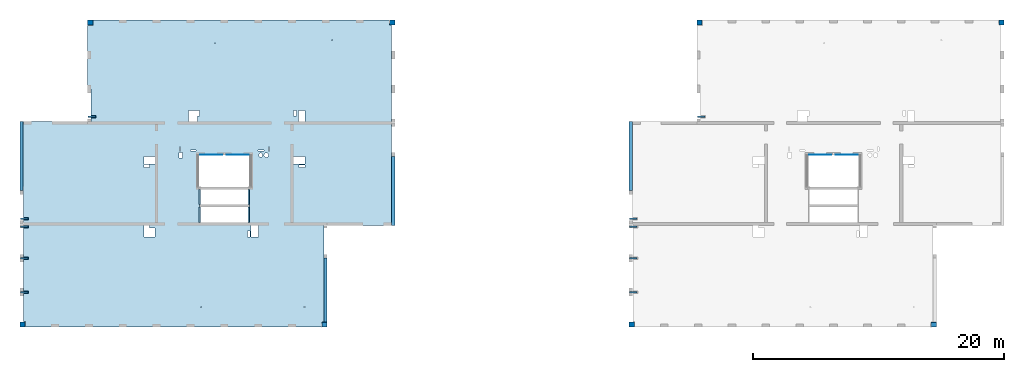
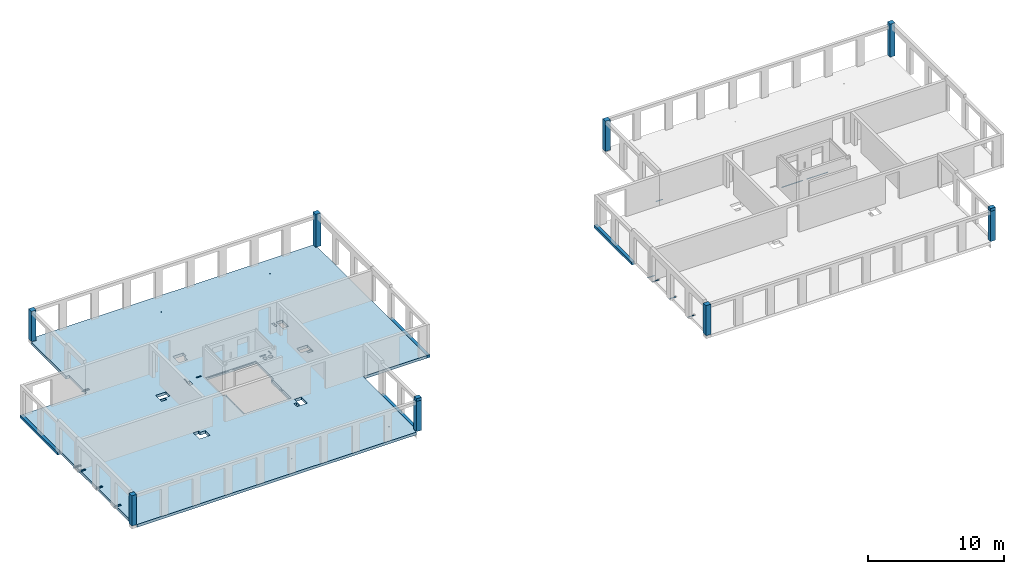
# One storey, part 1 of 8: 14 beams, 10 columns, 5 slabs, 35 openings.
"""IFC2X3 building model written with IfcOpenShell, lengths in millimetres."""

import ifcopenshell
import ifcopenshell.guid

model = None  # the IFC model being written
_history = None  # IfcOwnerHistory: only IFC2X3 demands one
_inside = {}  # id of a spatial element -> (the spatial element, [elements in it])
_under = {}  # id of a project, library or spatial element -> (it, [spatial elements below it])
_declared = {}  # id of a project -> (the project, [libraries it declares])
_typed = {}  # id of a type object -> (the type object, [elements of that type])
_made_of = {}  # id of a material, layer set ... -> (it, [elements and type objects made of it])


def new_model(schema):
    """Start an empty IFC model of exactly this schema.

    Asked for "IFC4X3", IfcOpenShell would pick the latest addendum, in which some entities
    have other attributes; the version numbers below select the first issue.
    IFC2X3 requires an IfcOwnerHistory on every rooted entity: one is made here for all.
    """
    global model, _history
    if schema == "IFC4X3":
        model = ifcopenshell.file(schema_version=(4, 3, 0, 0))
    else:
        model = ifcopenshell.file(schema=schema)
    _inside.clear()
    _under.clear()
    _declared.clear()
    _typed.clear()
    _made_of.clear()
    _history = None
    if model.schema == "IFC2X3":
        org = make("IfcOrganization", Name="unknown")
        user = make(
            "IfcPersonAndOrganization",
            ThePerson=make("IfcPerson", FamilyName="unknown"),
            TheOrganization=org,
        )
        app = make(
            "IfcApplication",
            ApplicationDeveloper=org,
            Version="unknown",
            ApplicationFullName="unknown",
            ApplicationIdentifier="unknown",
        )
        _history = make(
            "IfcOwnerHistory",
            OwningUser=user,
            OwningApplication=app,
            ChangeAction="ADDED",
            CreationDate=0,
        )
    return model


def make(cls, **values):
    """One entity of the class cls with the attributes given. An attribute that is None is left unset."""
    return model.create_entity(
        cls, **{name: value for name, value in values.items() if value is not None}
    )


def entity(cls, *values):
    """Any entity or typed value of the class cls, its attributes in the order of the schema. None: left unset."""
    e = model.create_entity(cls)
    for i, value in enumerate(values):
        if value is not None:
            e[i] = value
    return e


def rooted(cls, **values):
    """An entity with a GlobalId (a new one), such as an element, a storey or a relation."""
    return make(cls, GlobalId=ifcopenshell.guid.new(), OwnerHistory=_history, **values)


def si_unit(unit_type, name, prefix=None):
    """IfcSIUnit, for example si_unit("LENGTHUNIT", "METRE", prefix="MILLI")."""
    return make("IfcSIUnit", UnitType=unit_type, Prefix=prefix, Name=name)


def converted_unit(unit_type, name, factor, base, dimensions=None, offset=None):
    """IfcConversionBasedUnit, such as the inch: factor (a typed value) times the base unit."""
    return make(
        "IfcConversionBasedUnit"
        if offset is None
        else "IfcConversionBasedUnitWithOffset",
        ConversionOffset=offset,
        Dimensions=None
        if dimensions is None
        else entity("IfcDimensionalExponents", *dimensions),
        UnitType=unit_type,
        Name=name,
        ConversionFactor=make(
            "IfcMeasureWithUnit", ValueComponent=factor, UnitComponent=base
        ),
    )


def derived_unit(unit_type, elements):
    """IfcDerivedUnit: a product of units, each with its exponent."""
    return make(
        "IfcDerivedUnit",
        Elements=[
            make("IfcDerivedUnitElement", Unit=unit, Exponent=power)
            for unit, power in elements
        ],
        UnitType=unit_type,
    )


def assignment(units):
    """IfcUnitAssignment: the units of a project."""
    return None if units is None else make("IfcUnitAssignment", Units=units)


def point(xyz):
    """IfcCartesianPoint."""
    return None if xyz is None else make("IfcCartesianPoint", Coordinates=xyz)


def direction(xyz):
    """IfcDirection."""
    return None if xyz is None else make("IfcDirection", DirectionRatios=xyz)


def frame(location, z_axis=None, x_axis=None):
    """IfcAxis2Placement3D, a coordinate frame: its origin and axes. An axis left out is left unset."""
    return make(
        "IfcAxis2Placement3D",
        Location=point(location),
        Axis=direction(z_axis),
        RefDirection=direction(x_axis),
    )


def frame_2d(location, x_axis=None):
    """IfcAxis2Placement2D, a coordinate frame in the plane: its origin and x axis."""
    return make(
        "IfcAxis2Placement2D", Location=point(location), RefDirection=direction(x_axis)
    )


def origin():
    """The frame at (0, 0, 0) with its axes left unset."""
    return frame((0.0, 0.0, 0.0))


def origin_2d_with_axis():
    """The frame at (0, 0) in the plane with the x axis (1, 0) written out."""
    return frame_2d((0.0, 0.0), x_axis=(1.0, 0.0))


def place(relative_to, where):
    """IfcLocalPlacement: puts the frame where relative to a parent placement (None: the world)."""
    return make(
        "IfcLocalPlacement", PlacementRelTo=relative_to, RelativePlacement=where
    )


def context(
    kind, dimensions, precision=None, world=None, true_north=None, identifier=None
):
    """IfcGeometricRepresentationContext, for example the 3D "Model" context."""
    return make(
        "IfcGeometricRepresentationContext",
        ContextIdentifier=identifier,
        ContextType=kind,
        CoordinateSpaceDimension=dimensions,
        Precision=precision,
        WorldCoordinateSystem=world,
        TrueNorth=true_north,
    )


def subcontext(parent, identifier, kind, view, scale=None):
    """IfcGeometricRepresentationSubContext, for example "Body" below "Model"."""
    return make(
        "IfcGeometricRepresentationSubContext",
        ContextIdentifier=identifier,
        ContextType=kind,
        ParentContext=parent,
        TargetScale=scale,
        TargetView=view,
    )


def project(units=None, contexts=None):
    """IfcProject with its units and contexts."""
    return rooted(
        "IfcProject",
        Name="project",
        RepresentationContexts=contexts,
        UnitsInContext=assignment(units),
    )


def spatial(cls, under=None, at=None, **own):
    """A site, building, storey or space (cls), placed at a placement, below another one or the project."""
    s = rooted(cls, ObjectPlacement=at, **own)
    if under is not None:
        _under.setdefault(under.id(), (under, []))[1].append(s)
    return s


def polyline(points):
    """IfcPolyline through the points."""
    return make("IfcPolyline", Points=[point(p) for p in points])


def profile(cls, at=None, kind="AREA", **sizes):
    """A parametric profile (cls). Its sizes go by their IFC names, for example OverallWidth=200.0."""
    return make(cls, ProfileType=kind, Position=at, **sizes)


def rectangle(**sizes):
    """IfcRectangleProfileDef."""
    return profile("IfcRectangleProfileDef", **sizes)


def circle(**sizes):
    """IfcCircleProfileDef."""
    return profile("IfcCircleProfileDef", **sizes)


def outline(outer, holes=None, kind="AREA"):
    """IfcArbitraryClosedProfileDef: a profile drawn as a closed curve; with holes, ...WithVoids."""
    if holes is None:
        return make("IfcArbitraryClosedProfileDef", ProfileType=kind, OuterCurve=outer)
    return make(
        "IfcArbitraryProfileDefWithVoids",
        ProfileType=kind,
        OuterCurve=outer,
        InnerCurves=holes,
    )


def extrude(swept, where, along, depth):
    """IfcExtrudedAreaSolid: the profile swept, set in the frame where, extruded along a direction by depth."""
    return make(
        "IfcExtrudedAreaSolid",
        SweptArea=swept,
        Position=where,
        ExtrudedDirection=direction(along),
        Depth=depth,
    )


def shape(context_of_items, identifier, shape_type, items):
    """IfcShapeRepresentation: the items that make up one representation, for example the "Body"."""
    return make(
        "IfcShapeRepresentation",
        ContextOfItems=context_of_items,
        RepresentationIdentifier=identifier,
        RepresentationType=shape_type,
        Items=items,
    )


def source(mapping_origin, context_of_items, identifier, shape_type, items):
    """IfcRepresentationMap: a shape defined once, which mapped items show again and again."""
    return make(
        "IfcRepresentationMap",
        MappingOrigin=mapping_origin,
        MappedRepresentation=shape(context_of_items, identifier, shape_type, items),
    )


def transform(
    local_origin,
    x_axis=None,
    y_axis=None,
    z_axis=None,
    scale=None,
    scale2=None,
    scale3=None,
    uniform=True,
):
    """IfcCartesianTransformationOperator3D, or its non-uniform kind. x_axis, y_axis, z_axis: its Axis1, 2, 3."""
    if uniform:
        return make(
            "IfcCartesianTransformationOperator3D",
            Axis1=direction(x_axis),
            Axis2=direction(y_axis),
            LocalOrigin=point(local_origin),
            Scale=scale,
            Axis3=direction(z_axis),
        )
    return make(
        "IfcCartesianTransformationOperator3DnonUniform",
        Axis1=direction(x_axis),
        Axis2=direction(y_axis),
        LocalOrigin=point(local_origin),
        Scale=scale,
        Axis3=direction(z_axis),
        Scale2=scale2,
        Scale3=scale3,
    )


def mapped(mapping_source, mapping_target):
    """IfcMappedItem: shows the shape of a source again, moved by a transform."""
    return make(
        "IfcMappedItem", MappingSource=mapping_source, MappingTarget=mapping_target
    )


def material(Name=None, Category=None):
    """IfcMaterial."""
    return make("IfcMaterial", Name=Name, Category=Category)


def layer(
    of_material, thickness, ventilated=None, Name=None, Category=None, Priority=None
):
    """IfcMaterialLayer: one layer of a wall or slab, of a material (None: an air gap)."""
    return make(
        "IfcMaterialLayer",
        Material=of_material,
        LayerThickness=thickness,
        IsVentilated=ventilated,
        Name=Name,
        Category=Category,
        Priority=Priority,
    )


def layer_set(layers, Name=None):
    """IfcMaterialLayerSet."""
    return make("IfcMaterialLayerSet", MaterialLayers=layers, LayerSetName=Name)


def layer_usage(for_layer_set, set_direction, sense, offset, extent=None):
    """IfcMaterialLayerSetUsage: how a layer set lies in its element."""
    return make(
        "IfcMaterialLayerSetUsage",
        ForLayerSet=for_layer_set,
        LayerSetDirection=set_direction,
        DirectionSense=sense,
        OffsetFromReferenceLine=offset,
        ReferenceExtent=extent,
    )


def made_of(thing, what):
    """Note that an element or type object is made of a material, layer set ...; save() writes the relation."""
    if what is not None:
        _made_of.setdefault(what.id(), (what, []))[1].append(thing)
    return thing


def type_object(cls, material=None, **own):
    """A type object (cls), such as IfcWallType, which elements share."""
    return made_of(rooted(cls, **own), material)


def type_shapes(of_type, sources):
    """Give a type object the sources (RepresentationMaps) that its elements show as mapped items."""
    of_type.RepresentationMaps = sources


def element(
    cls,
    number,
    at=None,
    inside=None,
    cuts=None,
    type_object=None,
    material=None,
    context=None,
    identifier="Body",
    shape_type=None,
    held_by="IfcProductDefinitionShape",
    body=None,
    shapes=None,
    **own,
):
    """One element of the class cls, such as IfcWall. Its Tag is "e" and its number.

    at: its placement. inside: the storey or other place that contains it. cuts: it is an
    opening in that element (IfcRelVoidsElement). A single representation is given by context,
    identifier, shape_type and body (its items); several are given by shapes. held_by: the class
    of the entity that holds the representations. save() writes the other relations.
    """
    e = rooted(cls, Tag="e%d" % number, ObjectPlacement=at, **own)
    if body is not None:
        shapes = [shape(context, identifier, shape_type, body)]
    if shapes is not None:
        e.Representation = make(held_by, Representations=shapes)
    if inside is not None:
        _inside.setdefault(inside.id(), (inside, []))[1].append(e)
    if cuts is not None:
        rooted(
            "IfcRelVoidsElement", RelatingBuildingElement=cuts, RelatedOpeningElement=e
        )
    if type_object is not None:
        _typed.setdefault(type_object.id(), (type_object, []))[1].append(e)
    return made_of(e, material)


def aggregate(whole, parts):
    """IfcRelAggregates: a whole, such as a stair, and the parts it consists of."""
    return rooted("IfcRelAggregates", RelatingObject=whole, RelatedObjects=parts)


def save(model, path):
    """Write the relations noted so far, then the file.

    IfcRelAggregates (storeys below a building ...), IfcRelContainedInSpatialStructure (elements
    in a storey), IfcRelDefinesByType, IfcRelAssociatesMaterial and IfcRelDeclares: one each for
    every whole, place, type object, material and project.
    """
    for whole, parts in _under.values():
        aggregate(whole, parts)
    for where, things in _inside.values():
        rooted(
            "IfcRelContainedInSpatialStructure",
            RelatedElements=things,
            RelatingStructure=where,
        )
    for kind, things in _typed.values():
        rooted("IfcRelDefinesByType", RelatedObjects=things, RelatingType=kind)
    for what, things in _made_of.values():
        rooted("IfcRelAssociatesMaterial", RelatedObjects=things, RelatingMaterial=what)
    for by, libraries in _declared.values():
        rooted("IfcRelDeclares", RelatingContext=by, RelatedDefinitions=libraries)
    model.write(path)


model = new_model("IFC2X3")

# Units and contexts
model_context = context("Model", 3, precision=0.01, world=origin(), true_north=direction((6.12303176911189e-17, 1.0)))
body_context = subcontext(model_context, "Body", "Model", "MODEL_VIEW")
ifc_project = project(units=[si_unit("LENGTHUNIT", "METRE", prefix="MILLI"), si_unit("AREAUNIT", "SQUARE_METRE"), si_unit("VOLUMEUNIT", "CUBIC_METRE"), converted_unit("PLANEANGLEUNIT", "DEGREE", entity("IfcRatioMeasure", 0.0174532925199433), si_unit("PLANEANGLEUNIT", "RADIAN"), dimensions=[0, 0, 0, 0, 0, 0, 0]), si_unit("MASSUNIT", "GRAM", prefix="KILO"), derived_unit("MASSDENSITYUNIT", [(si_unit("MASSUNIT", "GRAM", prefix="KILO"), 1), (si_unit("LENGTHUNIT", "METRE"), -3)]), si_unit("TIMEUNIT", "SECOND"), si_unit("FREQUENCYUNIT", "HERTZ"), si_unit("THERMODYNAMICTEMPERATUREUNIT", "DEGREE_CELSIUS"), derived_unit("THERMALTRANSMITTANCEUNIT", [(si_unit("MASSUNIT", "GRAM", prefix="KILO"), 1), (si_unit("THERMODYNAMICTEMPERATUREUNIT", "KELVIN"), -1), (si_unit("TIMEUNIT", "SECOND"), -3)]), derived_unit("VOLUMETRICFLOWRATEUNIT", [(si_unit("LENGTHUNIT", "METRE"), 3), (si_unit("TIMEUNIT", "SECOND"), -1)]), si_unit("ELECTRICCURRENTUNIT", "AMPERE"), si_unit("ELECTRICVOLTAGEUNIT", "VOLT"), si_unit("POWERUNIT", "WATT"), si_unit("FORCEUNIT", "NEWTON", prefix="KILO"), si_unit("ILLUMINANCEUNIT", "LUX"), si_unit("LUMINOUSFLUXUNIT", "LUMEN"), si_unit("LUMINOUSINTENSITYUNIT", "CANDELA"), derived_unit("USERDEFINED", [(si_unit("MASSUNIT", "GRAM", prefix="KILO"), -1), (si_unit("LENGTHUNIT", "METRE"), -2), (si_unit("TIMEUNIT", "SECOND"), 3), (si_unit("LUMINOUSFLUXUNIT", "LUMEN"), 1)]), derived_unit("LINEARVELOCITYUNIT", [(si_unit("LENGTHUNIT", "METRE"), 1), (si_unit("TIMEUNIT", "SECOND"), -1)]), si_unit("PRESSUREUNIT", "PASCAL"), derived_unit("USERDEFINED", [(si_unit("LENGTHUNIT", "METRE"), -2), (si_unit("MASSUNIT", "GRAM", prefix="KILO"), 1), (si_unit("TIMEUNIT", "SECOND"), -2)])], contexts=[model_context])

# Site, building, storey
site_placement = place(None, origin())
site = spatial("IfcSite", under=ifc_project, at=site_placement, Name="Default", CompositionType="ELEMENT")
building_placement = place(site_placement, origin())
building = spatial("IfcBuilding", under=site, at=building_placement, Name="niet gebruiken", CompositionType="ELEMENT")
storey_placement = place(building_placement, frame((0.0, 0.0, 39330.0)))
storey = spatial("IfcBuildingStorey", under=building, at=storey_placement, Name="13 dertiende verdieping", CompositionType="ELEMENT", Elevation=39330.0)

# Columns
ifc_material_1 = material(Name="NLRS_f2_beton prefab")
column_type_1 = type_object("IfcColumnType", Name="410x410", PredefinedType="COLUMN", material=ifc_material_1)
shared_shape_1 = source(origin(), body_context, "Body", "SweptSolid", [
    extrude(rectangle(XDim=410.0, YDim=410.0, at=origin_2d_with_axis()), frame((0.0, 0.0, 39260.0), z_axis=(0.0, 0.0, 1.0), x_axis=(0.0, -1.0, 0.0)), (0.0, 0.0, 1.0), 2699.99999999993),
])
type_shapes(column_type_1, [shared_shape_1])
for number, where, name in (
    (1, (99795.0, 28961.0, -39330.0), "NLRS_28. kolom vierkant_gen:410x410"),
    (2, (81105.0, 53051.0, -39330.0), "NLRS_28. kolom vierkant_gen:410x410"),
    (3, (51195.0, 28961.0, -39330.0), "NLRS_28. kolom vierkant_gen:410x410"),
    (4, (32505.0, 53051.0, -39330.0), "NLRS_28. kolom vierkant_gen:410x410"),
):
    element("IfcColumn", number, at=place(storey_placement, frame(where)), inside=storey, type_object=column_type_1, material=ifc_material_1, Name=name, ObjectType="410x410", context=body_context, shape_type="MappedRepresentation", body=[
        mapped(shared_shape_1, transform((0.0, 0.0, 0.0), scale=1.0)),
    ])
column_type_2 = type_object("IfcColumnType", Name="410x410", PredefinedType="COLUMN", material=ifc_material_1)
shared_shape_2 = source(origin(), body_context, "Body", "SweptSolid", [
    extrude(rectangle(XDim=410.0, YDim=410.0, at=origin_2d_with_axis()), frame((0.0, 0.0, 39260.0), z_axis=(0.0, 0.0, 1.0), x_axis=(0.0, -1.0, 0.0)), (0.0, 0.0, 1.0), 2700.0),
])
type_shapes(column_type_2, [shared_shape_2])
for number, where, z_axis, x_axis, name in (
    (5, (75705.0, 28961.0, -39330.0), (0.0, 0.0, 1.0), (0.0, 1.0, 0.0), "NLRS_28. kolom vierkant_gen1:410x410"),
    (6, (27105.0, 28961.0, -39330.0), (0.0, 0.0, 1.0), (0.0, 1.0, 0.0), "NLRS_28. kolom vierkant_gen1:410x410"),
):
    element("IfcColumn", number, at=place(storey_placement, frame(where, z_axis=z_axis, x_axis=x_axis)), inside=storey, type_object=column_type_2, material=ifc_material_1, Name=name, ObjectType="410x410", context=body_context, shape_type="MappedRepresentation", body=[
        mapped(shared_shape_2, transform((0.0, 0.0, 0.0), scale=1.0)),
    ])
column_type_3 = type_object("IfcColumnType", Name="410x410", PredefinedType="COLUMN", material=ifc_material_1)
shared_shape_3 = source(origin(), body_context, "Body", "SweptSolid", [
    extrude(rectangle(XDim=410.000000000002, YDim=409.999999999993, at=origin_2d_with_axis()), frame((105195.0, 53051.0, 39260.0), z_axis=(0.0, 0.0, 1.0), x_axis=(0.0, -1.0, 0.0)), (0.0, 0.0, 1.0), 2950.00000000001),
])
type_shapes(column_type_3, [shared_shape_3])
column_1_placement = place(storey_placement, frame((0.0, 0.0, -39330.0)))
element("IfcColumn", 7, at=column_1_placement, inside=storey, type_object=column_type_3, material=ifc_material_1, Name="NLRS_28. kolom vierkant_gen:410x410", ObjectType="410x410", context=body_context, shape_type="MappedRepresentation", body=[
    mapped(shared_shape_3, transform((0.0, 0.0, 0.0), scale=1.0)),
])
column_type_4 = type_object("IfcColumnType", Name="410x410", PredefinedType="COLUMN", material=ifc_material_1)
shared_shape_4 = source(origin(), body_context, "Body", "SweptSolid", [
    extrude(rectangle(XDim=410.000000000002, YDim=410.000000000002, at=frame_2d((8.66862137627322e-12, 0.0), x_axis=(1.0, 0.0))), frame((56595.0, 53051.0, 39260.0), z_axis=(0.0, 0.0, 1.0), x_axis=(0.0, -1.0, 0.0)), (0.0, 0.0, 1.0), 2950.00000000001),
])
type_shapes(column_type_4, [shared_shape_4])
column_2_placement = place(storey_placement, frame((0.0, 0.0, -39330.0)))
element("IfcColumn", 8, at=column_2_placement, inside=storey, type_object=column_type_4, material=ifc_material_1, Name="NLRS_28. kolom vierkant_gen:410x410", ObjectType="410x410", context=body_context, shape_type="MappedRepresentation", body=[
    mapped(shared_shape_4, transform((0.0, 0.0, 0.0), scale=1.0)),
])
column_type_5 = type_object("IfcColumnType", Name="410x360", PredefinedType="COLUMN", material=ifc_material_1)
shared_shape_5 = source(origin(), body_context, "Body", "SweptSolid", [
    extrude(rectangle(XDim=360.0, YDim=409.999999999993, at=origin_2d_with_axis()), frame((99795.0, 28936.0, 41960.0), z_axis=(0.0, 0.0, 1.0), x_axis=(0.0, -1.0, 0.0)), (0.0, 0.0, 1.0), 250.000000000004),
])
type_shapes(column_type_5, [shared_shape_5])
column_3_placement = place(storey_placement, frame((0.0, 0.0, -39330.0)))
element("IfcColumn", 9, at=column_3_placement, inside=storey, type_object=column_type_5, material=ifc_material_1, Name="NLRS_28. kolom vierkant_gen:410x360", ObjectType="410x360", context=body_context, shape_type="MappedRepresentation", body=[
    mapped(shared_shape_5, transform((0.0, 0.0, 0.0), scale=1.0)),
])
column_type_6 = type_object("IfcColumnType", Name="410x360", PredefinedType="COLUMN", material=ifc_material_1)
shared_shape_6 = source(origin(), body_context, "Body", "SweptSolid", [
    extrude(rectangle(XDim=360.0, YDim=410.000000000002, at=origin_2d_with_axis()), frame((51195.0, 28936.0, 41960.0), z_axis=(0.0, 0.0, 1.0), x_axis=(0.0, -1.0, 0.0)), (0.0, 0.0, 1.0), 250.000000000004),
])
type_shapes(column_type_6, [shared_shape_6])
column_4_placement = place(storey_placement, frame((0.0, 0.0, -39330.0)))
element("IfcColumn", 10, at=column_4_placement, inside=storey, type_object=column_type_6, material=ifc_material_1, Name="NLRS_28. kolom vierkant_gen:410x360", ObjectType="410x360", context=body_context, shape_type="MappedRepresentation", body=[
    mapped(shared_shape_6, transform((0.0, 0.0, 0.0), scale=1.0)),
])

# Beams
ifc_material_2 = material(Name="NLRS_h2_staal")
beam_type_1 = type_object("IfcBeamType", Name="ligger stripstaal RECT_120x10", PredefinedType="BEAM", material=ifc_material_2)
shared_shape_7 = source(origin(), body_context, "Body", "SweptSolid", [
    extrude(rectangle(XDim=599.999999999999, YDim=120.0, at=origin_2d_with_axis()), frame((0.0, 0.0, -5.0), z_axis=(0.0, 0.0, 1.0), x_axis=(-1.0, 0.0, 0.0)), (0.0, 0.0, 1.0), 9.99999999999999),
    extrude(rectangle(XDim=599.999999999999, YDim=120.0, at=origin_2d_with_axis()), frame((0.0, 0.0, -5.0), z_axis=(0.0, 0.0, 1.0), x_axis=(-1.0, 0.0, 0.0)), (0.0, 0.0, 1.0), 9.99999999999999),
])
type_shapes(beam_type_1, [shared_shape_7])
for number, where, name in (
    (11, (75835.0, 31556.0, -115.0), "NLRS_28.11_SF_WPB_stalen ligger stripstaal_gen:ligger stripstaal RECT_120x10"),
    (12, (75835.0, 34256.0, -115.0), "NLRS_28.11_SF_WPB_stalen ligger stripstaal_gen:ligger stripstaal RECT_120x10"),
    (13, (75835.0, 36766.0, -115.0), "NLRS_28.11_SF_WPB_stalen ligger stripstaal_gen:ligger stripstaal RECT_120x10"),
    (14, (27235.0, 31556.0, -115.0), "NLRS_28.11_SF_WPB_stalen ligger stripstaal_gen:ligger stripstaal RECT_120x10"),
    (15, (27235.0, 34256.0, -115.0), "NLRS_28.11_SF_WPB_stalen ligger stripstaal_gen:ligger stripstaal RECT_120x10"),
    (16, (27235.0, 36766.0, -115.0), "NLRS_28.11_SF_WPB_stalen ligger stripstaal_gen:ligger stripstaal RECT_120x10"),
):
    element("IfcBeam", number, at=place(storey_placement, frame(where)), inside=storey, type_object=beam_type_1, material=ifc_material_2, Name=name, ObjectType="ligger stripstaal RECT_120x10", context=body_context, shape_type="MappedRepresentation", body=[
        mapped(shared_shape_7, transform((0.0, 0.0, 0.0), scale=1.0)),
    ])
beam_type_2 = type_object("IfcBeamType", Name="NLRS_28.11_SF_WPB_Halfen 40-22_gen:ligger stripstaal RECT_100x10", PredefinedType="BEAM")
beam_1_placement = place(storey_placement, frame((89865.0, 42496.0, -160.0)))
element("IfcBeam", 17, at=beam_1_placement, inside=storey, type_object=beam_type_2, material=ifc_material_2, Name="NLRS_28.11_SF_WPB_Halfen 40-22_gen:ligger stripstaal RECT_100x10", ObjectType="NLRS_28.11_SF_WPB_Halfen 40-22_gen:ligger stripstaal RECT_100x10", context=body_context, shape_type="SweptSolid", body=[
    extrude(outline(polyline([(-20.0, -8.0), (-9.0, -8.0), (-9.0, 0.0), (-11.0, 0.0), (-11.0, -6.0), (-18.0, -6.0), (-18.0, 13.0), (18.0, 13.0), (18.0, -6.0), (11.0, -6.0), (11.0, 0.0), (9.0, 0.0), (9.0, -8.0), (20.0, -8.0), (20.0, 15.0), (-20.0, 15.0), (-20.0, -8.0)])), frame((0.0, 8.0, 20.0), z_axis=(1.0, 0.0, 0.0), x_axis=(0.0, 0.0, -1.0)), (0.0, 0.0, 1.0), 1760.00000000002),
])
beam_2_placement = place(storey_placement, frame((91975.0, 42496.0, -160.0)))
element("IfcBeam", 18, at=beam_2_placement, inside=storey, type_object=beam_type_2, material=ifc_material_2, Name="NLRS_28.11_SF_WPB_Halfen 40-22_gen:ligger stripstaal RECT_100x10", ObjectType="NLRS_28.11_SF_WPB_Halfen 40-22_gen:ligger stripstaal RECT_100x10", context=body_context, shape_type="SweptSolid", body=[
    extrude(outline(polyline([(-20.0, -8.0), (-9.0, -8.0), (-9.0, 0.0), (-11.0, 0.0), (-11.0, -6.0), (-18.0, -6.0), (-18.0, 13.0), (18.0, 13.0), (18.0, -6.0), (11.0, -6.0), (11.0, 0.0), (9.0, 0.0), (9.0, -8.0), (20.0, -8.0), (20.0, 15.0), (-20.0, 15.0), (-20.0, -8.0)])), frame((0.0, 8.0, 20.0), z_axis=(1.0, 0.0, 0.0), x_axis=(0.0, 0.0, -1.0)), (0.0, 0.0, 1.0), 1760.0),
])
for number, where, name in (
    (19, (41264.9998491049, 42496.0, -160.0), "NLRS_28.11_SF_WPB_Halfen 40-22_gen:ligger stripstaal RECT_100x10"),
    (20, (43374.999849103, 42496.0, -160.0), "NLRS_28.11_SF_WPB_Halfen 40-22_gen:ligger stripstaal RECT_100x10"),
):
    element("IfcBeam", number, at=place(storey_placement, frame(where)), inside=storey, type_object=beam_type_2, material=ifc_material_2, Name=name, ObjectType="NLRS_28.11_SF_WPB_Halfen 40-22_gen:ligger stripstaal RECT_100x10", context=body_context, shape_type="SweptSolid", body=[
        extrude(outline(polyline([(-20.0, -8.0), (-9.0, -8.0), (-9.0, 0.0), (-11.0, 0.0), (-11.0, -6.0), (-18.0, -6.0), (-18.0, 13.0), (18.0, 13.0), (18.0, -6.0), (11.0, -6.0), (11.0, 0.0), (9.0, 0.0), (9.0, -8.0), (20.0, -8.0), (20.0, 15.0), (-20.0, 15.0), (-20.0, -8.0)])), frame((0.0, 8.0, 20.0), z_axis=(1.0, 0.0, 0.0), x_axis=(0.0, 0.0, -1.0)), (0.0, 0.0, 1.0), 1760.00000000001),
    ])
beam_type_3 = type_object("IfcBeamType", Name="ligger stripstaal RECT_120x10", PredefinedType="BEAM", material=ifc_material_2)
shared_shape_8 = source(origin(), body_context, "Body", "SweptSolid", [
    extrude(rectangle(XDim=120.0, YDim=600.000000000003, at=origin_2d_with_axis()), frame((0.0, 0.0, -5.0), z_axis=(0.0, 0.0, 1.0), x_axis=(0.0, 1.0, 0.0)), (0.0, 0.0, 1.0), 9.99999999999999),
    extrude(rectangle(XDim=120.0, YDim=600.000000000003, at=origin_2d_with_axis()), frame((0.0, 0.0, -5.0), z_axis=(0.0, 0.0, 1.0), x_axis=(0.0, 1.0, 0.0)), (0.0, 0.0, 1.0), 9.99999999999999),
])
type_shapes(beam_type_3, [shared_shape_8])
for number, where, name in (
    (21, (75835.0, 37386.0, -115.0), "NLRS_28.11_SF_WPB_stalen ligger stripstaal_gen:ligger stripstaal RECT_120x10"),
    (22, (81235.0, 45521.0, -115.0), "NLRS_28.11_SF_WPB_stalen ligger stripstaal_gen:ligger stripstaal RECT_120x10"),
    (23, (27235.0, 37386.0, -115.0), "NLRS_28.11_SF_WPB_stalen ligger stripstaal_gen:ligger stripstaal RECT_120x10"),
    (24, (32635.0, 45521.0, -115.0), "NLRS_28.11_SF_WPB_stalen ligger stripstaal_gen:ligger stripstaal RECT_120x10"),
):
    element("IfcBeam", number, at=place(storey_placement, frame(where)), inside=storey, type_object=beam_type_3, material=ifc_material_2, Name=name, ObjectType="ligger stripstaal RECT_120x10", context=body_context, shape_type="MappedRepresentation", body=[
        mapped(shared_shape_8, transform((0.0, 0.0, 0.0), scale=1.0)),
    ])

# Slab, openings
ifc_material_3 = material(Name="NLRS_f2_beton ihwg")
ifc_layer = layer(ifc_material_3, 250.0)
ifc_layer_set = layer_set([ifc_layer], Name="Floor:NLRS_23.21_FL_beton ihwg d=250_gen")
ifc_layer_usage_1 = layer_usage(ifc_layer_set, "AXIS3", "POSITIVE", 0.0)
slab_1_placement = place(storey_placement, frame((27150.0, 28756.0, -340.0)))
slab_1 = element("IfcSlab", 25, at=slab_1_placement, inside=storey, material=ifc_layer_usage_1, Name="Floor:NLRS_23.21_FL_beton ihwg d=250_gen", ObjectType="Floor:NLRS_23.21_FL_beton ihwg d=250_gen", PredefinedType="FLOOR", context=body_context, shape_type="SweptSolid", body=[
    extrude(outline(polyline([(9119.99996701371, 12250.0), (-14540.0, 12250.0), (-14540.0, 11840.0), (-14680.0, 11840.0), (-14680.0, 4060.0), (-14700.0, 4060.0), (-14700.0, -4150.0), (-9300.0, -4150.0), (-9300.0, -11890.0), (-9140.0, -11890.0), (-9140.0, -12250.0), (14520.0, -12250.0), (14520.0, -11820.0), (14660.0, -11820.0), (14660.0, -4060.0), (14680.0, -4060.0), (14680.0, -1040.0), (14950.0, -1040.0), (14950.0, 4150.0), (9280.0, 4150.0), (9280.0, 6750.0), (9550.0, 6750.0), (9550.0, 11820.0), (9119.99996701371, 11820.0), (9119.99996701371, 12250.0)])), frame((14700.0, 12250.0, 250.0), z_axis=(0.0, 0.0, -1.0), x_axis=(-1.0, 0.0, 0.0)), (0.0, 0.0, 1.0), 249.999999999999),
])
opening_1_placement = place(storey_placement, frame((27150.0, 28756.0, -340.0)))
element("IfcOpeningElement", 26, at=opening_1_placement, cuts=slab_1, ObjectType="Opening", context=body_context, shape_type="SweptSolid", body=[
    extrude(circle(Radius=37.5, at=frame_2d((-7750.0, -10650.0), x_axis=(1.0, 0.0))), frame((14700.0, 12250.0, 250.0), z_axis=(0.0, 0.0, -1.0), x_axis=(-1.0, 0.0, 0.0)), (0.0, 0.0, 1.0), 249.999999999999),
])
opening_2_placement = place(storey_placement, frame((27150.0, 28756.0, -340.0)))
element("IfcOpeningElement", 27, at=opening_2_placement, cuts=slab_1, ObjectType="Opening", context=body_context, shape_type="SweptSolid", body=[
    extrude(circle(Radius=37.5, at=frame_2d((-9950.0, 10650.0), x_axis=(1.0, 0.0))), frame((14700.0, 12250.0, 250.0), z_axis=(0.0, 0.0, -1.0), x_axis=(-1.0, 0.0, 0.0)), (0.0, 0.0, 1.0), 249.999999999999),
])
opening_3_placement = place(storey_placement, frame((27150.0, 28756.0, -340.0)))
element("IfcOpeningElement", 28, at=opening_3_placement, cuts=slab_1, ObjectType="Opening", context=body_context, shape_type="SweptSolid", body=[
    extrude(circle(Radius=37.5, at=frame_2d((-600.0, 10400.0), x_axis=(1.0, 0.0))), frame((14700.0, 12250.0, 250.0), z_axis=(0.0, 0.0, -1.0), x_axis=(-1.0, 0.0, 0.0)), (0.0, 0.0, 1.0), 249.999999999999),
])
opening_4_placement = place(storey_placement, frame((27150.0, 28756.0, -340.0)))
element("IfcOpeningElement", 29, at=opening_4_placement, cuts=slab_1, ObjectType="Opening", context=body_context, shape_type="SweptSolid", body=[
    extrude(circle(Radius=37.5, at=frame_2d((500.0, -10650.0), x_axis=(1.0, 0.0))), frame((14700.0, 12250.0, 250.0), z_axis=(0.0, 0.0, -1.0), x_axis=(-1.0, 0.0, 0.0)), (0.0, 0.0, 1.0), 249.999999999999),
])
opening_5_placement = place(slab_1_placement, origin())
element("IfcOpeningElement", 30, at=opening_5_placement, cuts=slab_1, ObjectType="Opening", context=body_context, shape_type="SweptSolid", body=[
    extrude(rectangle(XDim=110.000000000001, YDim=1220.0, at=origin_2d_with_axis()), frame((14094.9999671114, 10380.0, 210.0)), (0.0, 0.0, 1.0), 39.9999999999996),
])
opening_6_placement = place(slab_1_placement, origin())
element("IfcOpeningElement", 31, at=opening_6_placement, cuts=slab_1, ObjectType="Opening", context=body_context, shape_type="SweptSolid", body=[
    extrude(rectangle(XDim=110.000000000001, YDim=1220.0, at=origin_2d_with_axis()), frame((18005.0, 10380.0, 210.0)), (0.0, 0.0, 1.0), 39.9999999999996),
])
opening_7_placement = place(slab_1_placement, origin())
element("IfcOpeningElement", 32, at=opening_7_placement, cuts=slab_1, ObjectType="Opening", context=body_context, shape_type="SweptSolid", body=[
    extrude(rectangle(XDim=110.000000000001, YDim=1220.0, at=origin_2d_with_axis()), frame((18005.0, 8960.0, 210.0)), (0.0, 0.0, 1.0), 39.9999999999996),
])
opening_8_placement = place(slab_1_placement, origin())
element("IfcOpeningElement", 33, at=opening_8_placement, cuts=slab_1, ObjectType="Opening", context=body_context, shape_type="SweptSolid", body=[
    extrude(rectangle(XDim=110.000000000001, YDim=1220.0, at=origin_2d_with_axis()), frame((14094.9999671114, 8960.0, 210.0)), (0.0, 0.0, 1.0), 39.9999999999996),
])
opening_9_placement = place(slab_1_placement, origin())
element("IfcOpeningElement", 34, at=opening_9_placement, cuts=slab_1, ObjectType="Opening", context=body_context, shape_type="SweptSolid", body=[
    extrude(rectangle(XDim=400.000000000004, YDim=200.000000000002, at=origin_2d_with_axis()), frame((220.0, 8630.0, 220.0)), (0.0, 0.0, 1.0), 30.0000000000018),
])
opening_10_placement = place(slab_1_placement, origin())
element("IfcOpeningElement", 35, at=opening_10_placement, cuts=slab_1, ObjectType="Opening", context=body_context, shape_type="SweptSolid", body=[
    extrude(rectangle(XDim=200.000000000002, YDim=400.000000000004, at=origin_2d_with_axis()), frame((240.0, 8000.0, 220.0), z_axis=(0.0, 0.0, 1.0), x_axis=(0.0, -1.0, 0.0)), (0.0, 0.0, 1.0), 30.0000000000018),
])
opening_11_placement = place(slab_1_placement, origin())
element("IfcOpeningElement", 36, at=opening_11_placement, cuts=slab_1, ObjectType="Opening", context=body_context, shape_type="SweptSolid", body=[
    extrude(rectangle(XDim=200.000000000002, YDim=400.000000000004, at=origin_2d_with_axis()), frame((240.0, 5500.0, 220.0), z_axis=(0.0, 0.0, 1.0), x_axis=(0.0, -1.0, 0.0)), (0.0, 0.0, 1.0), 30.0000000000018),
])
opening_12_placement = place(slab_1_placement, origin())
element("IfcOpeningElement", 37, at=opening_12_placement, cuts=slab_1, ObjectType="Opening", context=body_context, shape_type="SweptSolid", body=[
    extrude(rectangle(XDim=200.000000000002, YDim=400.000000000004, at=origin_2d_with_axis()), frame((240.0, 2800.0, 220.0), z_axis=(0.0, 0.0, 1.0), x_axis=(0.0, -1.0, 0.0)), (0.0, 0.0, 1.0), 30.0000000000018),
])
opening_13_placement = place(slab_1_placement, origin())
element("IfcOpeningElement", 38, at=opening_13_placement, cuts=slab_1, ObjectType="Opening", context=body_context, shape_type="SweptSolid", body=[
    extrude(rectangle(XDim=400.000000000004, YDim=199.999999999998, at=origin_2d_with_axis()), frame((5620.0, 16765.0, 220.0)), (0.0, 0.0, 1.0), 30.0000000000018),
])
opening_14_placement = place(slab_1_placement, origin())
element("IfcOpeningElement", 39, at=opening_14_placement, cuts=slab_1, ObjectType="Opening", context=body_context, shape_type="SweptSolid", body=[
    extrude(rectangle(XDim=900.000000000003, YDim=729.999999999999, at=origin_2d_with_axis()), frame((13550.0, 16850.0, 0.0), z_axis=(0.0, 0.0, 1.0), x_axis=(0.0, 1.0, 0.0)), (0.0, 0.0, 1.0), 249.999999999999),
])
opening_15_placement = place(slab_1_placement, origin())
element("IfcOpeningElement", 40, at=opening_15_placement, cuts=slab_1, ObjectType="Opening", context=body_context, shape_type="SweptSolid", body=[
    extrude(rectangle(XDim=170.000000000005, YDim=450.000000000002, at=origin_2d_with_axis()), frame((14000.0, 17075.0, 0.0), z_axis=(0.0, 0.0, 1.0), x_axis=(-1.0, 0.0, 0.0)), (0.0, 0.0, 1.0), 249.999999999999),
])
opening_16_placement = place(slab_1_placement, origin())
element("IfcOpeningElement", 41, at=opening_16_placement, cuts=slab_1, ObjectType="Opening", context=body_context, shape_type="SweptSolid", body=[
    extrude(rectangle(XDim=900.000000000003, YDim=700.000000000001, at=origin_2d_with_axis()), frame((10075.0, 7550.0, 0.0), z_axis=(0.0, 0.0, 1.0), x_axis=(-1.0, 0.0, 0.0)), (0.0, 0.0, 1.0), 249.999999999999),
])
opening_17_placement = place(slab_1_placement, origin())
element("IfcOpeningElement", 42, at=opening_17_placement, cuts=slab_1, ObjectType="Opening", context=body_context, shape_type="SweptSolid", body=[
    extrude(rectangle(XDim=200.000000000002, YDim=450.000000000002, at=origin_2d_with_axis()), frame((9850.0, 8000.0, 0.0), z_axis=(0.0, 0.0, 1.0), x_axis=(0.0, -1.0, 0.0)), (0.0, 0.0, 1.0), 249.999999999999),
])
opening_18_placement = place(slab_1_placement, origin())
element("IfcOpeningElement", 43, at=opening_18_placement, cuts=slab_1, ObjectType="Opening", context=body_context, shape_type="SweptSolid", body=[
    extrude(rectangle(XDim=900.000000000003, YDim=600.000000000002, at=origin_2d_with_axis()), frame((10075.0, 13330.0, 0.0), z_axis=(0.0, 0.0, 1.0), x_axis=(-1.0, 0.0, 0.0)), (0.0, 0.0, 1.0), 249.999999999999),
])
opening_19_placement = place(slab_1_placement, origin())
element("IfcOpeningElement", 44, at=opening_19_placement, cuts=slab_1, ObjectType="Opening", context=body_context, shape_type="SweptSolid", body=[
    extrude(rectangle(XDim=900.000000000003, YDim=499.999999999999, at=origin_2d_with_axis()), frame((22225.0, 16850.0, 0.0), z_axis=(0.0, 0.0, 1.0), x_axis=(0.0, 1.0, 0.0)), (0.0, 0.0, 1.0), 249.999999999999),
])
opening_20_placement = place(slab_1_placement, origin())
element("IfcOpeningElement", 45, at=opening_20_placement, cuts=slab_1, ObjectType="Opening", context=body_context, shape_type="SweptSolid", body=[
    extrude(rectangle(XDim=899.999999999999, YDim=600.000000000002, at=origin_2d_with_axis()), frame((18479.9818996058, 7650.0, 0.0), z_axis=(0.0, 0.0, 1.0), x_axis=(0.0, 1.0, 0.0)), (0.0, 0.0, 1.0), 249.999999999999),
])
opening_21_placement = place(slab_1_placement, origin())
element("IfcOpeningElement", 46, at=opening_21_placement, cuts=slab_1, ObjectType="Opening", context=body_context, shape_type="SweptSolid", body=[
    extrude(rectangle(XDim=900.000000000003, YDim=600.000000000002, at=origin_2d_with_axis()), frame((22025.0, 13330.0, 0.0), z_axis=(0.0, 0.0, 1.0), x_axis=(-1.0, 0.0, 0.0)), (0.0, 0.0, 1.0), 249.999999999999),
])
opening_22_placement = place(slab_1_placement, origin())
element("IfcOpeningElement", 47, at=opening_22_placement, cuts=slab_1, ObjectType="Opening", context=body_context, shape_type="SweptSolid", body=[
    extrude(rectangle(XDim=1760.00000000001, YDim=23.0000000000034, at=origin_2d_with_axis()), frame((14994.9998491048, 13751.5, 180.0)), (0.0, 0.0, 1.0), 40.0000000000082),
])
opening_23_placement = place(slab_1_placement, origin())
element("IfcOpeningElement", 48, at=opening_23_placement, cuts=slab_1, ObjectType="Opening", context=body_context, shape_type="SweptSolid", body=[
    extrude(rectangle(XDim=1760.00000000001, YDim=23.0000000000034, at=origin_2d_with_axis()), frame((17104.999849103, 13751.5, 180.0)), (0.0, 0.0, 1.0), 40.0000000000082),
])
opening_24_placement = place(slab_1_placement, origin())
element("IfcOpeningElement", 49, at=opening_24_placement, cuts=slab_1, ObjectType="Opening", context=body_context, shape_type="SweptSolid", body=[
    extrude(rectangle(XDim=100.000000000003, YDim=340.000000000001, at=origin_2d_with_axis()), frame((19615.0, 14210.0, 0.0), z_axis=(0.0, 0.0, 1.0), x_axis=(-1.0, 0.0, 0.0)), (0.0, 0.0, 1.0), 249.999999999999),
])
opening_25_placement = place(slab_1_placement, origin())
element("IfcOpeningElement", 50, at=opening_25_placement, cuts=slab_1, ObjectType="Opening", context=body_context, shape_type="SweptSolid", body=[
    extrude(rectangle(XDim=100.000000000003, YDim=490.000000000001, at=origin_2d_with_axis()), frame((18975.0, 14090.0, 0.0), z_axis=(0.0, 0.0, 1.0), x_axis=(0.0, -1.0, 0.0)), (0.0, 0.0, 1.0), 249.999999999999),
])
opening_26_placement = place(slab_1_placement, origin())
element("IfcOpeningElement", 51, at=opening_26_placement, cuts=slab_1, ObjectType="Opening", context=body_context, shape_type="SweptSolid", body=[
    extrude(rectangle(XDim=100.000000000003, YDim=440.000000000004, at=origin_2d_with_axis()), frame((13555.0, 14090.0, 0.0), z_axis=(0.0, 0.0, 1.0), x_axis=(0.0, -1.0, 0.0)), (0.0, 0.0, 1.0), 249.999999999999),
])
opening_27_placement = place(slab_1_placement, origin())
element("IfcOpeningElement", 52, at=opening_27_placement, cuts=slab_1, ObjectType="Opening", context=body_context, shape_type="SweptSolid", body=[
    extrude(rectangle(XDim=100.000000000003, YDim=340.000000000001, at=origin_2d_with_axis()), frame((12505.0, 14210.0, 0.0), z_axis=(0.0, 0.0, 1.0), x_axis=(-1.0, 0.0, 0.0)), (0.0, 0.0, 1.0), 249.999999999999),
])
opening_28_placement = place(slab_1_placement, origin())
element("IfcOpeningElement", 53, at=opening_28_placement, cuts=slab_1, ObjectType="Opening", context=body_context, shape_type="SweptSolid", body=[
    extrude(rectangle(XDim=230.0, YDim=450.000000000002, at=origin_2d_with_axis()), frame((9850.00008659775, 12845.0002270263, 0.0), z_axis=(0.0, 0.0, 1.0), x_axis=(0.0, -1.0, 0.0)), (0.0, 0.0, 1.0), 249.999999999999),
])
opening_29_placement = place(slab_1_placement, origin())
element("IfcOpeningElement", 54, at=opening_29_placement, cuts=slab_1, ObjectType="Opening", context=body_context, shape_type="SweptSolid", body=[
    extrude(rectangle(XDim=220.000000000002, YDim=450.000000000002, at=origin_2d_with_axis()), frame((21685.0, 17075.0, 0.0), z_axis=(0.0, 0.0, 1.0), x_axis=(-1.0, 0.0, 0.0)), (0.0, 0.0, 1.0), 249.999999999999),
])
opening_30_placement = place(slab_1_placement, origin())
element("IfcOpeningElement", 55, at=opening_30_placement, cuts=slab_1, ObjectType="Opening", context=body_context, shape_type="SweptSolid", body=[
    extrude(rectangle(XDim=220.000000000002, YDim=450.000000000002, at=origin_2d_with_axis()), frame((22250.0, 12840.0, 0.0), z_axis=(0.0, 0.0, 1.0), x_axis=(0.0, -1.0, 0.0)), (0.0, 0.0, 1.0), 249.999999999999),
])
opening_31_placement = place(slab_1_placement, origin())
element("IfcOpeningElement", 56, at=opening_31_placement, cuts=slab_1, ObjectType="Opening", context=body_context, shape_type="SweptSolid", body=[
    extrude(rectangle(XDim=220.000000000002, YDim=450.000000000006, at=origin_2d_with_axis()), frame((17990.0, 7425.0, 0.0)), (0.0, 0.0, 1.0), 249.999999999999),
])
opening_32_placement = place(slab_1_placement, origin())
element("IfcOpeningElement", 57, at=opening_32_placement, cuts=slab_1, ObjectType="Opening", context=body_context, shape_type="SweptSolid", body=[
    extrude(rectangle(XDim=274.999999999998, YDim=440.000000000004, at=origin_2d_with_axis()), frame((12557.4999999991, 13720.0, 0.0)), (0.0, 0.0, 1.0), 249.999999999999),
])
opening_33_placement = place(slab_1_placement, origin())
element("IfcOpeningElement", 58, at=opening_33_placement, cuts=slab_1, ObjectType="Opening", context=body_context, shape_type="SweptSolid", body=[
    extrude(circle(Radius=157.5, at=origin_2d_with_axis()), frame((18950.0, 13720.0, 0.0)), (0.0, 0.0, 1.0), 249.999999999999),
])
opening_34_placement = place(slab_1_placement, origin())
element("IfcOpeningElement", 59, at=opening_34_placement, cuts=slab_1, ObjectType="Opening", context=body_context, shape_type="SweptSolid", body=[
    extrude(circle(Radius=177.5, at=origin_2d_with_axis()), frame((19400.0, 13720.0, 0.0)), (0.0, 0.0, 1.0), 249.999999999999),
])
opening_35_placement = place(slab_1_placement, frame((16050.0, 10378.75, 250.0)))
element("IfcOpeningElement", 60, at=opening_35_placement, cuts=slab_1, Name="Floor:NLRS_23.21_FL_beton ihwg d=250_gen:2", ObjectType="Opening", context=body_context, shape_type="SweptSolid", body=[
    extrude(outline(polyline([(-1899.99998355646, -2028.75000000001), (1900.00001644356, -2028.75000000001), (1900.00001644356, -808.750000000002), (1999.9999835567, -808.750000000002), (1999.9999835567, -608.75), (1900.00001644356, -608.75), (1900.00001644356, 751.250000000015), (2134.99998355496, 751.250000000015), (2134.99998355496, 3361.24999999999), (-2135.00001644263, 3361.24999999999), (-2135.00001644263, 751.250000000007), (-1899.99998355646, 751.250000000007), (-1899.99998355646, -608.750000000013), (-2000.00001644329, -608.750000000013), (-2000.00001644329, -808.750000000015), (-1899.99998355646, -808.750000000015), (-1899.99998355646, -2028.75000000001)])), frame((0.0, 0.0, 0.0), z_axis=(0.0, 0.0, -1.0), x_axis=(-1.0, 0.0, 0.0)), (0.0, 0.0, 1.0), 249.999999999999),
])

# Slabs
ifc_layer_usage_2 = layer_usage(ifc_layer_set, "AXIS3", "POSITIVE", 0.0)
slab_2_placement = place(storey_placement, origin())
element("IfcSlab", 61, at=slab_2_placement, inside=storey, material=ifc_layer_usage_2, Name="Floor:NLRS_23.21_FL_beton ihwg d=250_gen", ObjectType="Floor:NLRS_23.21_FL_beton ihwg d=250_gen", PredefinedType="FLOOR", context=body_context, shape_type="SweptSolid", body=[
    extrude(rectangle(XDim=5499.99999999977, YDim=250.000000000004, at=frame_2d((0.0, 4.33431068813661e-12), x_axis=(1.0, 0.0))), frame((75625.0, 42406.0, -90.0), z_axis=(0.0, 0.0, -1.0), x_axis=(0.0, 1.0, 0.0)), (0.0, 0.0, 1.0), 249.999999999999),
])
ifc_layer_usage_3 = layer_usage(ifc_layer_set, "AXIS3", "POSITIVE", 0.0)
slab_3_placement = place(storey_placement, origin())
element("IfcSlab", 62, at=slab_3_placement, inside=storey, material=ifc_layer_usage_3, Name="Floor:NLRS_23.21_FL_beton ihwg d=250_gen", ObjectType="Floor:NLRS_23.21_FL_beton ihwg d=250_gen", PredefinedType="FLOOR", context=body_context, shape_type="SweptSolid", body=[
    extrude(rectangle(XDim=5499.99999999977, YDim=250.000000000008, at=frame_2d((0.0, 2.16715534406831e-12), x_axis=(1.0, 0.0))), frame((27025.0, 42406.0, -90.0), z_axis=(0.0, 0.0, -1.0), x_axis=(0.0, 1.0, 0.0)), (0.0, 0.0, 1.0), 249.999999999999),
])
ifc_layer_usage_4 = layer_usage(ifc_layer_set, "AXIS3", "POSITIVE", 0.0)
slab_4_placement = place(storey_placement, origin())
element("IfcSlab", 63, at=slab_4_placement, inside=storey, material=ifc_layer_usage_4, Name="Floor:NLRS_23.21_FL_beton ihwg d=250_gen", ObjectType="Floor:NLRS_23.21_FL_beton ihwg d=250_gen", PredefinedType="FLOOR", context=body_context, shape_type="SweptSolid", body=[
    extrude(rectangle(XDim=5140.00000000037, YDim=250.000065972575, at=frame_2d((-2.27373675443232e-12, 0.0), x_axis=(1.0, 0.0))), frame((51275.0, 31686.0, -90.0), z_axis=(0.0, 0.0, -1.0), x_axis=(0.0, 1.0, 0.0)), (0.0, 0.0, 1.0), 249.999999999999),
])
ifc_layer_usage_5 = layer_usage(ifc_layer_set, "AXIS3", "POSITIVE", 0.0)
slab_5_placement = place(storey_placement, origin())
element("IfcSlab", 64, at=slab_5_placement, inside=storey, material=ifc_layer_usage_5, Name="Floor:NLRS_23.21_FL_beton ihwg d=250_gen", ObjectType="Floor:NLRS_23.21_FL_beton ihwg d=250_gen", PredefinedType="FLOOR", context=body_context, shape_type="SweptSolid", body=[
    extrude(rectangle(XDim=5500.00000000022, YDim=250.000000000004, at=frame_2d((0.0, -4.33431068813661e-12), x_axis=(1.0, 0.0))), frame((56675.0, 39606.0, -90.0), z_axis=(0.0, 0.0, -1.0), x_axis=(0.0, 1.0, 0.0)), (0.0, 0.0, 1.0), 249.999999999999),
])

save(model, "model.ifc")
